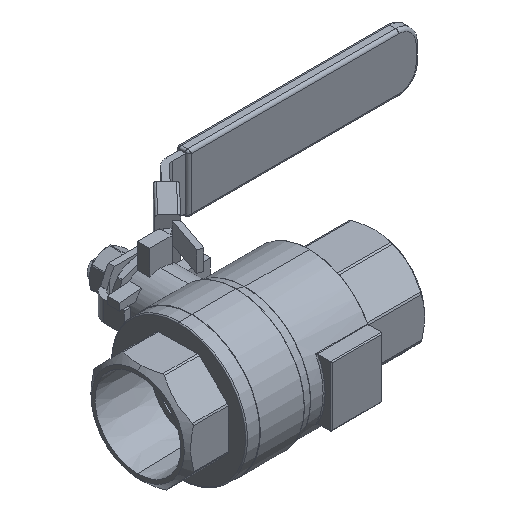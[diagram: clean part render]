
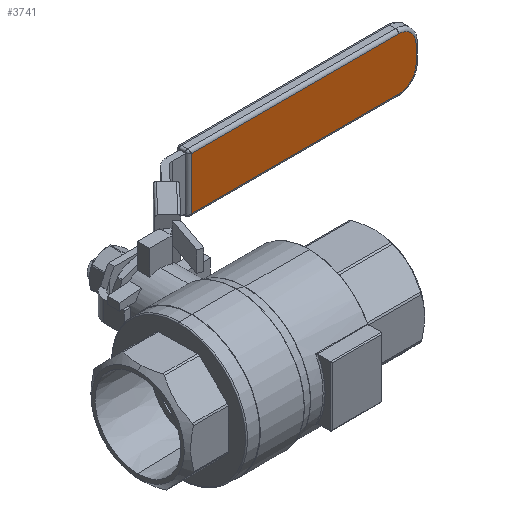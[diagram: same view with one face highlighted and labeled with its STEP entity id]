
A CAD part, isometric view. The second image highlights one B-rep face of the part: STEP entity #3741.
In plain terms, the highlighted planar face has unit normal (0, -1, 0).
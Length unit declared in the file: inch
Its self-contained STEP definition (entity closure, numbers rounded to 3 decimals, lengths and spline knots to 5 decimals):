
#330 = DIRECTION ( 'NONE',  ( 0., 1., 0. ) ) ;
#781 = FACE_OUTER_BOUND ( 'NONE', #23014, .T. ) ;
#782 = EDGE_CURVE ( 'NONE', #14052, #6438, #20691, .T. ) ;
#1847 = CARTESIAN_POINT ( 'NONE',  ( 3.16, 1.78, -0.085 ) ) ;
#1870 = AXIS2_PLACEMENT_3D ( 'NONE', #1847, #16605, #3950 ) ;
#2160 = AXIS2_PLACEMENT_3D ( 'NONE', #10532, #25351, #12657 ) ;
#2405 = ORIENTED_EDGE ( 'NONE', *, *, #16721, .T. ) ;
#2440 = CARTESIAN_POINT ( 'NONE',  ( 3.16, 1.78, 0.085 ) ) ;
#2981 = VERTEX_POINT ( 'NONE', #3248 ) ;
#3248 = CARTESIAN_POINT ( 'NONE',  ( 3.33, 1.78, 0.085 ) ) ;
#3689 = CARTESIAN_POINT ( 'NONE',  ( 3.16, 1.78, -0.255 ) ) ;
#3741 = ADVANCED_FACE ( 'NONE', ( #781 ), #19337, .F. ) ;
#3815 = VECTOR ( 'NONE', #12174, 39.37008 ) ;
#3950 = DIRECTION ( 'NONE',  ( 0., 0., 1. ) ) ;
#5127 = CIRCLE ( 'NONE', #1870, 0.17 ) ;
#6365 = ORIENTED_EDGE ( 'NONE', *, *, #9649, .T. ) ;
#6420 = VECTOR ( 'NONE', #16357, 39.37008 ) ;
#6438 = VERTEX_POINT ( 'NONE', #7603 ) ;
#7000 = DIRECTION ( 'NONE',  ( 0., 0., -1. ) ) ;
#7603 = CARTESIAN_POINT ( 'NONE',  ( 1.1297, 1.78, 0.255 ) ) ;
#7828 = DIRECTION ( 'NONE',  ( 0., 0., 1. ) ) ;
#8581 = CARTESIAN_POINT ( 'NONE',  ( 1.1297, 1.78, -0.255 ) ) ;
#9649 = EDGE_CURVE ( 'NONE', #17896, #15221, #5127, .T. ) ;
#9889 = VERTEX_POINT ( 'NONE', #8581 ) ;
#10415 = ORIENTED_EDGE ( 'NONE', *, *, #10637, .T. ) ;
#10532 = CARTESIAN_POINT ( 'NONE',  ( 3.16, 1.78, 0.085 ) ) ;
#10637 = EDGE_CURVE ( 'NONE', #9889, #17896, #12045, .T. ) ;
#11912 = AXIS2_PLACEMENT_3D ( 'NONE', #2440, #330, #21487 ) ;
#12045 = LINE ( 'NONE', #3689, #6420 ) ;
#12174 = DIRECTION ( 'NONE',  ( -1., 0., 0. ) ) ;
#12657 = DIRECTION ( 'NONE',  ( 0., 0., 1. ) ) ;
#13737 = ORIENTED_EDGE ( 'NONE', *, *, #782, .T. ) ;
#14052 = VERTEX_POINT ( 'NONE', #22898 ) ;
#14589 = VECTOR ( 'NONE', #7000, 39.37008 ) ;
#15059 = CARTESIAN_POINT ( 'NONE',  ( 3.16, 1.78, -0.255 ) ) ;
#15221 = VERTEX_POINT ( 'NONE', #24877 ) ;
#15270 = ORIENTED_EDGE ( 'NONE', *, *, #18417, .T. ) ;
#16357 = DIRECTION ( 'NONE',  ( 1., 0., 0. ) ) ;
#16499 = CARTESIAN_POINT ( 'NONE',  ( 1.1197, 1.78, 0.255 ) ) ;
#16605 = DIRECTION ( 'NONE',  ( 0., -1., 0. ) ) ;
#16721 = EDGE_CURVE ( 'NONE', #6438, #9889, #25840, .T. ) ;
#17115 = VECTOR ( 'NONE', #7828, 39.37008 ) ;
#17896 = VERTEX_POINT ( 'NONE', #15059 ) ;
#18372 = CIRCLE ( 'NONE', #2160, 0.17 ) ;
#18417 = EDGE_CURVE ( 'NONE', #15221, #2981, #22762, .T. ) ;
#19337 = PLANE ( 'NONE',  #11912 ) ;
#20473 = CARTESIAN_POINT ( 'NONE',  ( 3.33, 1.78, 0.085 ) ) ;
#20691 = LINE ( 'NONE', #16499, #3815 ) ;
#21487 = DIRECTION ( 'NONE',  ( 0., 0., 1. ) ) ;
#22071 = EDGE_CURVE ( 'NONE', #2981, #14052, #18372, .T. ) ;
#22762 = LINE ( 'NONE', #20473, #17115 ) ;
#22898 = CARTESIAN_POINT ( 'NONE',  ( 3.16, 1.78, 0.255 ) ) ;
#23014 = EDGE_LOOP ( 'NONE', ( #6365, #15270, #24043, #13737, #2405, #10415 ) ) ;
#24043 = ORIENTED_EDGE ( 'NONE', *, *, #22071, .T. ) ;
#24877 = CARTESIAN_POINT ( 'NONE',  ( 3.33, 1.78, -0.085 ) ) ;
#25351 = DIRECTION ( 'NONE',  ( 0., -1., 0. ) ) ;
#25840 = LINE ( 'NONE', #26061, #14589 ) ;
#26061 = CARTESIAN_POINT ( 'NONE',  ( 1.1297, 1.78, -0.265 ) ) ;
